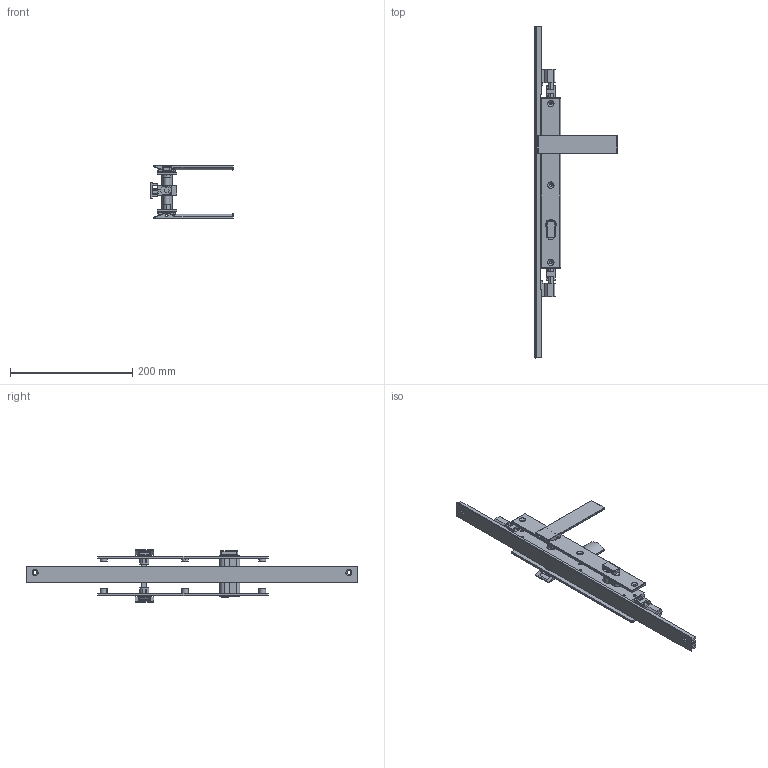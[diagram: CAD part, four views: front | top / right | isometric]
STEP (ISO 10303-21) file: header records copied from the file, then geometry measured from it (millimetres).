
FILE_DESCRIPTION (( 'STEP AP214' ), '1' );
FILE_NAME ('TPL-W-512-U 19July2024.STEP', '2024-12-05T00:06:40', ( '' ), ( '' ), 'SwSTEP 2.0', 'SolidWorks 2023', '' );
FILE_SCHEMA (( 'AUTOMOTIVE_DESIGN' ));
Length unit declared in the file: millimetre
Products named in the file (21): Copy of Handle sub-assembly - simplified^Copy of TPGen2 handle keyed internal - simplified_TPL-W-012 19July2024; Copy of TPLGen2 lock body keyed^Copy of TPLGen2 lock body keyed assembly_TPL-W-012 19July2024; Copy of Copy of LKC-531 Lock twinpoint transmission rod wood system^TPL-W-012 19July2024_Standard Range 2891.7mm; Copy of Adapter CnE - simplfied^TPL-W-012 19July2024_26mm backset; Copy of TPL-020 Lock cylinder suit 2.25 inch panel^TPL-W-012 19July2024; Copy of Handle sub-assembly - simplified^Copy of TPGen2 handle keyed external - simplified_TPL-W-012 19July2024; Copy of COV-112-A Cover A suit TPLGen2 standard range^TPL-W-012 19July2024_2870mm; Copy (2) of COV-112-B Cover B suit TPLGen2 standard range^TPL-W-012 19July2024_2870mm; TPLGen2 push rod - simplified^Copy of TPLGen2 lock body keyed assembly_TPL-W-012 19July2024_Female thread M10; Copy of LKC-547 Spindle - simplified^Copy of TPGen2 handle keyed external - simplified_TPL-W-012 19July2024_G - 24mm; Copy of Adapter DnF - simplfied^TPL-W-012 19July2024_26mm backset; Bolt.step; Copy of Copy of Copy of LKC-531 Lock twinpoint transmission rod wood system^TPL-W-012 19July2024_Standard Range 2891.7mm; Copy of TPGen2 handle keyed external - simplified^TPL-W-012 19July2024_Left; Copy of Escutcheon plate keyed external 280mm - simplified^Copy of TPGen2 handle keyed external - simplified_TPL-W-012 19July2024; Copy of Escutcheon plate keyed internal 280mm - simplified^Copy of TPGen2 handle keyed internal - simplified_TPL-W-012 19July2024; Copy of COV-112-C Cover C TPLGen2 Lock body^TPL-W-012 19July2024; Copy of TPLGen2 lock body keyed assembly^TPL-W-012 19July2024_Bolts retracted; Copy of LKC-547 Spindle - simplified^Copy of TPGen2 handle keyed internal - simplified_TPL-W-012 19July2024_E - 19mm; Copy of TPGen2 handle keyed internal - simplified^TPL-W-012 19July2024_Right; TPL-W-512-U 19July2024
Assembly tree (18 placements, depth 3):
  Copy of COV-112-A Cover A suit TPLGen2 standard range^TPL-W-012 19July2024_2870mm
  Copy (2) of COV-112-B Cover B suit TPLGen2 standard range^TPL-W-012 19July2024_2870mm
  Bolt.step
  TPL-W-512-U 19July2024
    Copy of TPLGen2 lock body keyed assembly^TPL-W-012 19July2024_Bolts retracted
      Copy of TPLGen2 lock body keyed^Copy of TPLGen2 lock body keyed assembly_TPL-W-012 19July2024
      TPLGen2 push rod - simplified^Copy of TPLGen2 lock body keyed assembly_TPL-W-012 19July2024_Female thread M10  x2
    Copy of TPGen2 handle keyed internal - simplified^TPL-W-012 19July2024_Right
      Copy of Escutcheon plate keyed internal 280mm - simplified^Copy of TPGen2 handle keyed internal - simplified_TPL-W-012 19July2024
      Copy of Handle sub-assembly - simplified^Copy of TPGen2 handle keyed internal - simplified_TPL-W-012 19July2024
      Copy of LKC-547 Spindle - simplified^Copy of TPGen2 handle keyed internal - simplified_TPL-W-012 19July2024_E - 19mm
    Copy of TPGen2 handle keyed external - simplified^TPL-W-012 19July2024_Left
      Copy of Escutcheon plate keyed external 280mm - simplified^Copy of TPGen2 handle keyed external - simplified_TPL-W-012 19July2024
      Copy of Handle sub-assembly - simplified^Copy of TPGen2 handle keyed external - simplified_TPL-W-012 19July2024
      Copy of LKC-547 Spindle - simplified^Copy of TPGen2 handle keyed external - simplified_TPL-W-012 19July2024_G - 24mm
    Copy of TPL-020 Lock cylinder suit 2.25 inch panel^TPL-W-012 19July2024
    Copy of COV-112-C Cover C TPLGen2 Lock body^TPL-W-012 19July2024
    Copy of Copy of LKC-531 Lock twinpoint transmission rod wood system^TPL-W-012 19July2024_Standard Range 2891.7mm
    Copy of Copy of Copy of LKC-531 Lock twinpoint transmission rod wood system^TPL-W-012 19July2024_Standard Range 2891.7mm
    Copy of Adapter DnF - simplfied^TPL-W-012 19July2024_26mm backset
    Copy of Adapter CnE - simplfied^TPL-W-012 19July2024_26mm backset
Bounding box: 134.5 x 544 x 86.29 mm (x, y, z)
Volume: 362869.8 mm3; surface area: 178542.8 mm2
Topology: 17 solids, 20 shells, 1089 faces, 2762 edges, 1724 vertices
Faces by surface type: cylinder 451, plane 422, bspline 89, torus 68, cone 35, sphere 24
Entity records: 33341 total; most frequent: CARTESIAN_POINT 7266, DIRECTION 5466, ORIENTED_EDGE 5268, EDGE_CURVE 2634, AXIS2_PLACEMENT_3D 2048, VERTEX_POINT 1664, VECTOR 1370, LINE 1370
